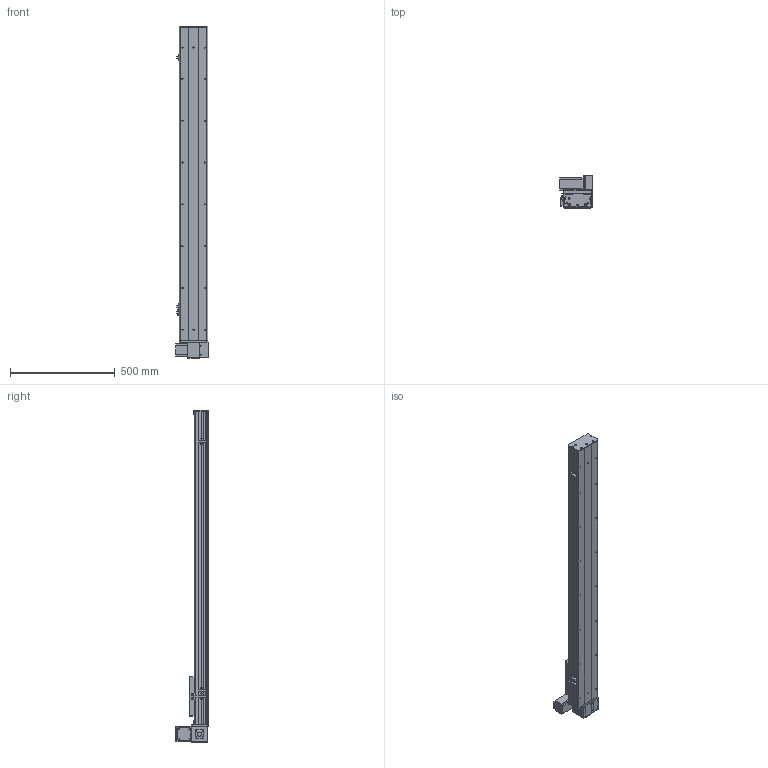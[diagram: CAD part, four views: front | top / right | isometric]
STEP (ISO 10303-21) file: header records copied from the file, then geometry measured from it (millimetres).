
FILE_DESCRIPTION (( 'STEP AP203' ), '1' );
FILE_NAME ('Y135CB-D90-S1200-UL-P400W.STEP', '2020-02-18T07:27:15', ( '微软用户' ), ( '微软中国' ), 'SwSTEP 2.0', 'SolidWorks 2017', '' );
FILE_SCHEMA (( 'CONFIG_CONTROL_DESIGN' ));
Length unit declared in the file: millimetre
Products named in the file (18): C-雄赽釱--; 0B-萇儂楊擘啣; Y10B-耜蚾蟀諉啣----; san松下电机400不带刹车----; 00B-俋欶BM--; 5CB --掛极耜裔啣-; Y135CB-耜裔; Y10B--々湍喘謫眊--666; C-詩湍揤踡え-陔; 135CB---遴掛极.-; Y135CB-D90-S1200-UL-P400W; 135CB--詩湍-CE; 35CB---喘謫眊楊擘啣; Y100-135俋离換覜ん--; 0B-埴倛裔啣; Y135C-陔俋离換覜結え-; 0B-源倛裔啣; 5C--俋欶
Assembly tree (21 placements, depth 2):
  Y135CB-D90-S1200-UL-P400W
    Y135CB-耜裔
    135CB---遴掛极.-
    35CB---喘謫眊楊擘啣
    0B-埴倛裔啣
    0B-源倛裔啣
    0B-萇儂楊擘啣
    san松下电机400不带刹车----
    5CB --掛极耜裔啣-  x2
    C-詩湍揤踡え-陔  x2
    135CB--詩湍-CE
    Y100-135俋离換覜ん--  x3
    Y135C-陔俋离換覜結え-
    5C--俋欶
    C-雄赽釱--
    Y10B-耜蚾蟀諉啣----
    00B-俋欶BM--
    Y10B--々湍喘謫眊--666
Bounding box: 157 x 158.7 x 1588 mm (x, y, z)
Volume: 4905834.9 mm3; surface area: 1924724.4 mm2
Topology: 21 solids, 21 shells, 949 faces, 2545 edges, 1686 vertices
Faces by surface type: cylinder 477, plane 456, cone 16
Entity records: 29551 total; most frequent: DIRECTION 4909, CARTESIAN_POINT 4856, ORIENTED_EDGE 4566, EDGE_CURVE 2283, AXIS2_PLACEMENT_3D 1791, VERTEX_POINT 1514, LINE 1327, VECTOR 1327
